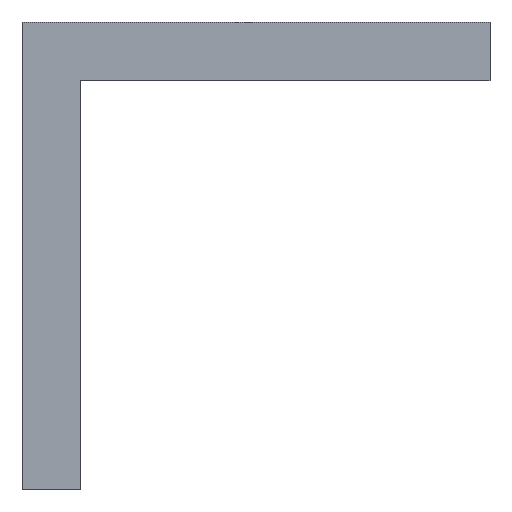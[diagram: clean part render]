
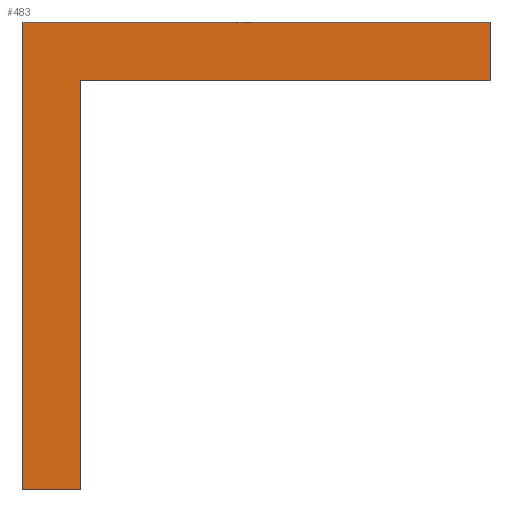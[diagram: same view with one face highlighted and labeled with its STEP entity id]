
A CAD part, front view. The second image highlights one B-rep face of the part: STEP entity #483.
In plain terms, the highlighted planar face has unit normal (0, -1, 0).
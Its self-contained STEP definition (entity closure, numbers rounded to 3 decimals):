
#22 = VERTEX_POINT('',#23);
#23 = CARTESIAN_POINT('',(1743.,-1715.,2850.));
#32 = PLANE('',#33);
#33 = AXIS2_PLACEMENT_3D('',#34,#35,#36);
#34 = CARTESIAN_POINT('',(1743.,-1715.,2850.));
#35 = DIRECTION('',(0.,0.,-1.));
#36 = DIRECTION('',(1.,0.,0.));
#44 = PLANE('',#45);
#45 = AXIS2_PLACEMENT_3D('',#46,#47,#48);
#46 = CARTESIAN_POINT('',(1743.,-1715.,2773.8));
#47 = DIRECTION('',(1.,0.,0.));
#48 = DIRECTION('',(0.,0.,1.));
#85 = VERTEX_POINT('',#86);
#86 = CARTESIAN_POINT('',(1819.2,-1715.,2850.));
#100 = PLANE('',#101);
#101 = AXIS2_PLACEMENT_3D('',#102,#103,#104);
#102 = CARTESIAN_POINT('',(1819.2,-1715.,2850.));
#103 = DIRECTION('',(-1.,0.,0.));
#104 = DIRECTION('',(0.,0.,-1.));
#112 = EDGE_CURVE('',#22,#85,#113,.T.);
#113 = SURFACE_CURVE('',#114,(#118,#125),.PCURVE_S1.);
#114 = LINE('',#115,#116);
#115 = CARTESIAN_POINT('',(1743.,-1715.,2850.));
#116 = VECTOR('',#117,1.);
#117 = DIRECTION('',(1.,0.,0.));
#118 = PCURVE('',#32,#119);
#119 = DEFINITIONAL_REPRESENTATION('',(#120),#124);
#120 = LINE('',#121,#122);
#121 = CARTESIAN_POINT('',(0.,0.));
#122 = VECTOR('',#123,1.);
#123 = DIRECTION('',(1.,0.));
#124 = ( GEOMETRIC_REPRESENTATION_CONTEXT(2) 
PARAMETRIC_REPRESENTATION_CONTEXT() REPRESENTATION_CONTEXT('2D SPACE',''
  ) );
#125 = PCURVE('',#126,#131);
#126 = PLANE('',#127);
#127 = AXIS2_PLACEMENT_3D('',#128,#129,#130);
#128 = CARTESIAN_POINT('',(1766.515,-1715.,
    2826.485));
#129 = DIRECTION('',(0.,1.,0.));
#130 = DIRECTION('',(0.,-0.,1.));
#131 = DEFINITIONAL_REPRESENTATION('',(#132),#136);
#132 = LINE('',#133,#134);
#133 = CARTESIAN_POINT('',(23.515,-23.515));
#134 = VECTOR('',#135,1.);
#135 = DIRECTION('',(0.,1.));
#136 = ( GEOMETRIC_REPRESENTATION_CONTEXT(2) 
PARAMETRIC_REPRESENTATION_CONTEXT() REPRESENTATION_CONTEXT('2D SPACE',''
  ) );
#166 = VERTEX_POINT('',#167);
#167 = CARTESIAN_POINT('',(1819.2,-1715.,2840.475));
#181 = PLANE('',#182);
#182 = AXIS2_PLACEMENT_3D('',#183,#184,#185);
#183 = CARTESIAN_POINT('',(1819.2,-1715.,2840.475));
#184 = DIRECTION('',(0.,-0.,1.));
#185 = DIRECTION('',(-1.,0.,0.));
#193 = EDGE_CURVE('',#85,#166,#194,.T.);
#194 = SURFACE_CURVE('',#195,(#199,#206),.PCURVE_S1.);
#195 = LINE('',#196,#197);
#196 = CARTESIAN_POINT('',(1819.2,-1715.,2850.));
#197 = VECTOR('',#198,1.);
#198 = DIRECTION('',(0.,0.,-1.));
#199 = PCURVE('',#100,#200);
#200 = DEFINITIONAL_REPRESENTATION('',(#201),#205);
#201 = LINE('',#202,#203);
#202 = CARTESIAN_POINT('',(0.,-0.));
#203 = VECTOR('',#204,1.);
#204 = DIRECTION('',(1.,0.));
#205 = ( GEOMETRIC_REPRESENTATION_CONTEXT(2) 
PARAMETRIC_REPRESENTATION_CONTEXT() REPRESENTATION_CONTEXT('2D SPACE',''
  ) );
#206 = PCURVE('',#126,#207);
#207 = DEFINITIONAL_REPRESENTATION('',(#208),#212);
#208 = LINE('',#209,#210);
#209 = CARTESIAN_POINT('',(23.515,52.685));
#210 = VECTOR('',#211,1.);
#211 = DIRECTION('',(-1.,0.));
#212 = ( GEOMETRIC_REPRESENTATION_CONTEXT(2) 
PARAMETRIC_REPRESENTATION_CONTEXT() REPRESENTATION_CONTEXT('2D SPACE',''
  ) );
#242 = VERTEX_POINT('',#243);
#243 = CARTESIAN_POINT('',(1752.525,-1715.,2840.475));
#257 = PLANE('',#258);
#258 = AXIS2_PLACEMENT_3D('',#259,#260,#261);
#259 = CARTESIAN_POINT('',(1752.525,-1715.,2840.475));
#260 = DIRECTION('',(-1.,0.,0.));
#261 = DIRECTION('',(0.,0.,-1.));
#269 = EDGE_CURVE('',#166,#242,#270,.T.);
#270 = SURFACE_CURVE('',#271,(#275,#282),.PCURVE_S1.);
#271 = LINE('',#272,#273);
#272 = CARTESIAN_POINT('',(1819.2,-1715.,2840.475));
#273 = VECTOR('',#274,1.);
#274 = DIRECTION('',(-1.,0.,0.));
#275 = PCURVE('',#181,#276);
#276 = DEFINITIONAL_REPRESENTATION('',(#277),#281);
#277 = LINE('',#278,#279);
#278 = CARTESIAN_POINT('',(0.,0.));
#279 = VECTOR('',#280,1.);
#280 = DIRECTION('',(1.,0.));
#281 = ( GEOMETRIC_REPRESENTATION_CONTEXT(2) 
PARAMETRIC_REPRESENTATION_CONTEXT() REPRESENTATION_CONTEXT('2D SPACE',''
  ) );
#282 = PCURVE('',#126,#283);
#283 = DEFINITIONAL_REPRESENTATION('',(#284),#288);
#284 = LINE('',#285,#286);
#285 = CARTESIAN_POINT('',(13.99,52.685));
#286 = VECTOR('',#287,1.);
#287 = DIRECTION('',(0.,-1.));
#288 = ( GEOMETRIC_REPRESENTATION_CONTEXT(2) 
PARAMETRIC_REPRESENTATION_CONTEXT() REPRESENTATION_CONTEXT('2D SPACE',''
  ) );
#318 = VERTEX_POINT('',#319);
#319 = CARTESIAN_POINT('',(1752.525,-1715.,2773.8));
#333 = PLANE('',#334);
#334 = AXIS2_PLACEMENT_3D('',#335,#336,#337);
#335 = CARTESIAN_POINT('',(1752.525,-1715.,2773.8));
#336 = DIRECTION('',(0.,-0.,1.));
#337 = DIRECTION('',(-1.,0.,0.));
#345 = EDGE_CURVE('',#242,#318,#346,.T.);
#346 = SURFACE_CURVE('',#347,(#351,#358),.PCURVE_S1.);
#347 = LINE('',#348,#349);
#348 = CARTESIAN_POINT('',(1752.525,-1715.,2840.475));
#349 = VECTOR('',#350,1.);
#350 = DIRECTION('',(0.,0.,-1.));
#351 = PCURVE('',#257,#352);
#352 = DEFINITIONAL_REPRESENTATION('',(#353),#357);
#353 = LINE('',#354,#355);
#354 = CARTESIAN_POINT('',(0.,-0.));
#355 = VECTOR('',#356,1.);
#356 = DIRECTION('',(1.,0.));
#357 = ( GEOMETRIC_REPRESENTATION_CONTEXT(2) 
PARAMETRIC_REPRESENTATION_CONTEXT() REPRESENTATION_CONTEXT('2D SPACE',''
  ) );
#358 = PCURVE('',#126,#359);
#359 = DEFINITIONAL_REPRESENTATION('',(#360),#364);
#360 = LINE('',#361,#362);
#361 = CARTESIAN_POINT('',(13.99,-13.99));
#362 = VECTOR('',#363,1.);
#363 = DIRECTION('',(-1.,0.));
#364 = ( GEOMETRIC_REPRESENTATION_CONTEXT(2) 
PARAMETRIC_REPRESENTATION_CONTEXT() REPRESENTATION_CONTEXT('2D SPACE',''
  ) );
#394 = VERTEX_POINT('',#395);
#395 = CARTESIAN_POINT('',(1743.,-1715.,2773.8));
#416 = EDGE_CURVE('',#318,#394,#417,.T.);
#417 = SURFACE_CURVE('',#418,(#422,#429),.PCURVE_S1.);
#418 = LINE('',#419,#420);
#419 = CARTESIAN_POINT('',(1752.525,-1715.,2773.8));
#420 = VECTOR('',#421,1.);
#421 = DIRECTION('',(-1.,0.,0.));
#422 = PCURVE('',#333,#423);
#423 = DEFINITIONAL_REPRESENTATION('',(#424),#428);
#424 = LINE('',#425,#426);
#425 = CARTESIAN_POINT('',(0.,0.));
#426 = VECTOR('',#427,1.);
#427 = DIRECTION('',(1.,0.));
#428 = ( GEOMETRIC_REPRESENTATION_CONTEXT(2) 
PARAMETRIC_REPRESENTATION_CONTEXT() REPRESENTATION_CONTEXT('2D SPACE',''
  ) );
#429 = PCURVE('',#126,#430);
#430 = DEFINITIONAL_REPRESENTATION('',(#431),#435);
#431 = LINE('',#432,#433);
#432 = CARTESIAN_POINT('',(-52.685,-13.99));
#433 = VECTOR('',#434,1.);
#434 = DIRECTION('',(0.,-1.));
#435 = ( GEOMETRIC_REPRESENTATION_CONTEXT(2) 
PARAMETRIC_REPRESENTATION_CONTEXT() REPRESENTATION_CONTEXT('2D SPACE',''
  ) );
#463 = EDGE_CURVE('',#394,#22,#464,.T.);
#464 = SURFACE_CURVE('',#465,(#469,#476),.PCURVE_S1.);
#465 = LINE('',#466,#467);
#466 = CARTESIAN_POINT('',(1743.,-1715.,2773.8));
#467 = VECTOR('',#468,1.);
#468 = DIRECTION('',(0.,0.,1.));
#469 = PCURVE('',#44,#470);
#470 = DEFINITIONAL_REPRESENTATION('',(#471),#475);
#471 = LINE('',#472,#473);
#472 = CARTESIAN_POINT('',(0.,0.));
#473 = VECTOR('',#474,1.);
#474 = DIRECTION('',(1.,0.));
#475 = ( GEOMETRIC_REPRESENTATION_CONTEXT(2) 
PARAMETRIC_REPRESENTATION_CONTEXT() REPRESENTATION_CONTEXT('2D SPACE',''
  ) );
#476 = PCURVE('',#126,#477);
#477 = DEFINITIONAL_REPRESENTATION('',(#478),#482);
#478 = LINE('',#479,#480);
#479 = CARTESIAN_POINT('',(-52.685,-23.515));
#480 = VECTOR('',#481,1.);
#481 = DIRECTION('',(1.,0.));
#482 = ( GEOMETRIC_REPRESENTATION_CONTEXT(2) 
PARAMETRIC_REPRESENTATION_CONTEXT() REPRESENTATION_CONTEXT('2D SPACE',''
  ) );
#483 = ADVANCED_FACE('',(#484),#126,.F.);
#484 = FACE_BOUND('',#485,.F.);
#485 = EDGE_LOOP('',(#486,#487,#488,#489,#490,#491));
#486 = ORIENTED_EDGE('',*,*,#112,.T.);
#487 = ORIENTED_EDGE('',*,*,#193,.T.);
#488 = ORIENTED_EDGE('',*,*,#269,.T.);
#489 = ORIENTED_EDGE('',*,*,#345,.T.);
#490 = ORIENTED_EDGE('',*,*,#416,.T.);
#491 = ORIENTED_EDGE('',*,*,#463,.T.);
